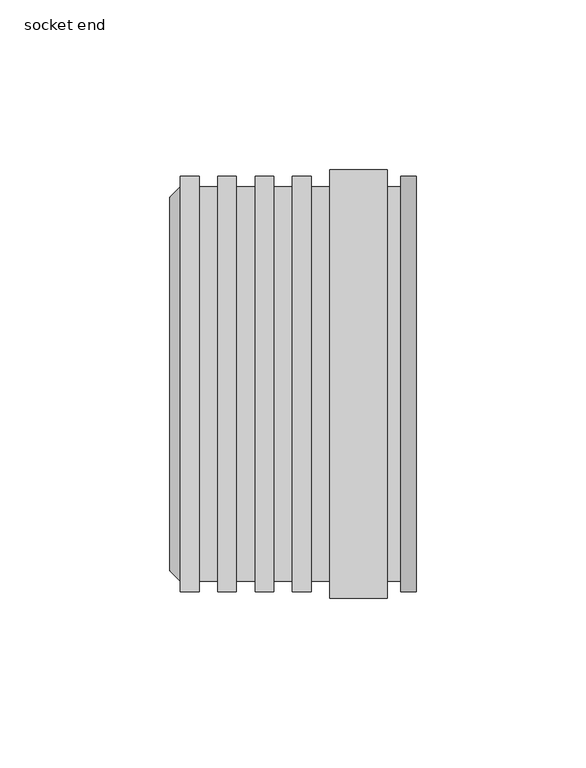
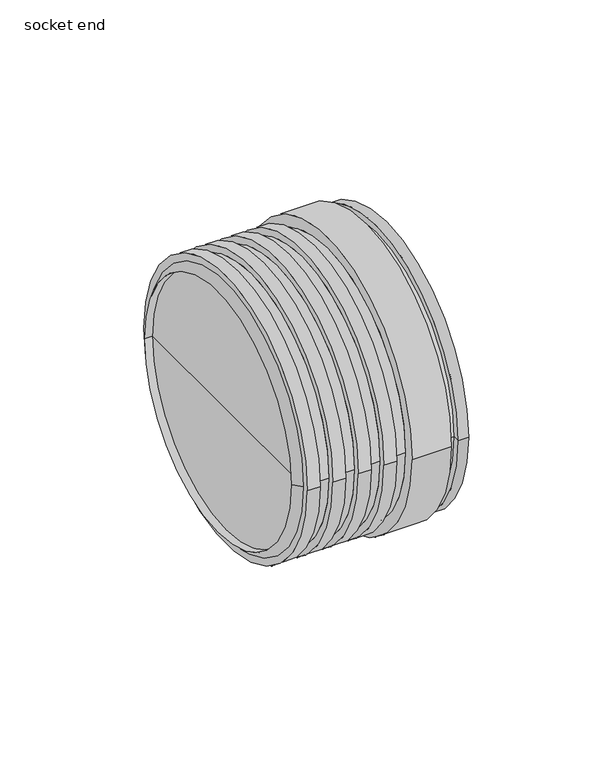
"""IFC4 building model written with IfcOpenShell, lengths in millimetres: pipe fitting geometry, Wavin SiTech+ M Muffenstopfen : socket end."""

from ifc_helpers import new_model, si_unit, frame, origin, place, context, project, spatial, polyline, circle_curve, source, transform, mapped, element, save
from ifc_brep_helpers import plane_surface, cylinder_surface, revolved_surface, advanced_brep


def socket_end_055a691a(model_context):
    return source(origin(), model_context, "Body", "AdvancedBrep", [
        advanced_brep(
        [(-72.710144, 55.0, 0.0), (-72.710144, -55.0, 0.0), (-4.5, -55.0, 0.0), (-4.5, 55.0, 0.0), (-69.5, 58.1, 0.0), (-69.5, -58.1, 0.0), (-64.0, 61.2, 0.0), (-64.0, -61.2, 0.0), (-69.5, -61.2, 0.0), (-69.5, 61.2, 0.0), (-58.5, 58.1, 0.0), (-58.5, -58.1, 0.0), (-64.0, -58.1, 0.0), (-64.0, 58.1, 0.0), (-53.0, 61.2, 0.0), (-53.0, -61.2, 0.0), (-58.5, -61.2, 0.0), (-58.5, 61.2, 0.0), (-47.5, 58.1, 0.0), (-47.5, -58.1, 0.0), (-53.0, -58.1, 0.0), (-53.0, 58.1, 0.0), (-42.0, 61.2, 0.0), (-42.0, -61.2, 0.0), (-47.5, -61.2, 0.0), (-47.5, 61.2, 0.0), (-36.5, 58.1, 0.0), (-36.5, -58.1, 0.0), (-42.0, -58.1, 0.0), (-42.0, 58.1, 0.0), (-31.0, 61.2, 0.0), (-31.0, -61.2, 0.0), (-36.5, -61.2, 0.0), (-36.5, 61.2, 0.0), (-25.5, 58.1, 0.0), (-25.5, -58.1, 0.0), (-31.0, -58.1, 0.0), (-31.0, 58.1, 0.0), (-8.5, 63.2, 0.0), (-8.5, -63.2, 0.0), (-25.5, -63.2, 0.0), (-25.5, 63.2, 0.0), (-4.5, 58.1, 0.0), (-4.5, -58.1, 0.0), (-8.5, -58.1, 0.0), (-8.5, 58.1, 0.0)],
        [
            (0, 1, circle_curve(frame((-72.710144, 0.0, 0.0), z_axis=(-1.0, 0.0, 0.0), x_axis=(0.0, -1.0, 0.0)), 55.0)),
            (1, 2),
            (2, 3, circle_curve(frame((-4.5, 0.0, 0.0), z_axis=(1.0, 0.0, 0.0), x_axis=(0.0, -1.0, 0.0)), 55.0)),
            (3, 0),
            (4, 5, circle_curve(frame((-69.5, 0.0, 0.0), z_axis=(-1.0, 0.0, 0.0), x_axis=(0.0, -1.0, 0.0)), 58.1)),
            (5, 1),
            (0, 4),
            (6, 7, circle_curve(frame((-64.0, 0.0, 0.0), z_axis=(-1.0, 0.0, 0.0), x_axis=(0.0, -1.0, 0.0)), 61.2)),
            (7, 8),
            (8, 9, circle_curve(frame((-69.5, 0.0, 0.0), z_axis=(1.0, 0.0, 0.0), x_axis=(0.0, -1.0, 0.0)), 61.2)),
            (9, 6),
            (10, 11, circle_curve(frame((-58.5, 0.0, 0.0), z_axis=(-1.0, 0.0, 0.0), x_axis=(0.0, -1.0, 0.0)), 58.1)),
            (11, 12),
            (12, 13, circle_curve(frame((-64.0, 0.0, 0.0), z_axis=(1.0, 0.0, 0.0), x_axis=(0.0, -1.0, 0.0)), 58.1)),
            (13, 10),
            (14, 15, circle_curve(frame((-53.0, 0.0, 0.0), z_axis=(-1.0, 0.0, 0.0), x_axis=(0.0, -1.0, 0.0)), 61.2)),
            (15, 16),
            (16, 17, circle_curve(frame((-58.5, 0.0, 0.0), z_axis=(1.0, 0.0, 0.0), x_axis=(0.0, -1.0, 0.0)), 61.2)),
            (17, 14),
            (18, 19, circle_curve(frame((-47.5, 0.0, 0.0), z_axis=(-1.0, 0.0, 0.0), x_axis=(0.0, -1.0, 0.0)), 58.1)),
            (19, 20),
            (20, 21, circle_curve(frame((-53.0, 0.0, 0.0), z_axis=(1.0, 0.0, 0.0), x_axis=(0.0, -1.0, 0.0)), 58.1)),
            (21, 18),
            (22, 23, circle_curve(frame((-42.0, 0.0, 0.0), z_axis=(-1.0, 0.0, 0.0), x_axis=(0.0, -1.0, 0.0)), 61.2)),
            (23, 24),
            (24, 25, circle_curve(frame((-47.5, 0.0, 0.0), z_axis=(1.0, 0.0, 0.0), x_axis=(0.0, -1.0, 0.0)), 61.2)),
            (25, 22),
            (26, 27, circle_curve(frame((-36.5, 0.0, 0.0), z_axis=(-1.0, 0.0, 0.0), x_axis=(0.0, -1.0, 0.0)), 58.1)),
            (27, 28),
            (28, 29, circle_curve(frame((-42.0, 0.0, 0.0), z_axis=(1.0, 0.0, 0.0), x_axis=(0.0, -1.0, 0.0)), 58.1)),
            (29, 26),
            (30, 31, circle_curve(frame((-31.0, 0.0, 0.0), z_axis=(-1.0, 0.0, 0.0), x_axis=(0.0, -1.0, 0.0)), 61.2)),
            (31, 32),
            (32, 33, circle_curve(frame((-36.5, 0.0, 0.0), z_axis=(1.0, 0.0, 0.0), x_axis=(0.0, -1.0, 0.0)), 61.2)),
            (33, 30),
            (34, 35, circle_curve(frame((-25.5, 0.0, 0.0), z_axis=(-1.0, 0.0, 0.0), x_axis=(0.0, -1.0, 0.0)), 58.1)),
            (35, 36),
            (36, 37, circle_curve(frame((-31.0, 0.0, 0.0), z_axis=(1.0, 0.0, 0.0), x_axis=(0.0, -1.0, 0.0)), 58.1)),
            (37, 34),
            (38, 39, circle_curve(frame((-8.5, 0.0, 0.0), z_axis=(-1.0, 0.0, 0.0), x_axis=(0.0, -1.0, 0.0)), 63.2)),
            (39, 40),
            (40, 41, circle_curve(frame((-25.5, 0.0, 0.0), z_axis=(1.0, 0.0, 0.0), x_axis=(0.0, -1.0, 0.0)), 63.2)),
            (41, 38),
            (42, 43, circle_curve(frame((-4.5, 0.0, 0.0), z_axis=(-1.0, 0.0, 0.0), x_axis=(0.0, -1.0, 0.0)), 58.1)),
            (43, 44),
            (44, 45, circle_curve(frame((-8.5, 0.0, 0.0), z_axis=(1.0, 0.0, 0.0), x_axis=(0.0, -1.0, 0.0)), 58.1)),
            (45, 42),
            (1, 0, circle_curve(frame((-72.710144, 0.0, 0.0), z_axis=(-1.0, 0.0, 0.0), x_axis=(0.0, 1.0, 0.0)), 55.0)),
            (3, 2, circle_curve(frame((-4.5, 0.0, 0.0), z_axis=(1.0, 0.0, 0.0), x_axis=(0.0, 1.0, 0.0)), 55.0)),
            (5, 4, circle_curve(frame((-69.5, 0.0, 0.0), z_axis=(-1.0, 0.0, 0.0), x_axis=(0.0, 1.0, 0.0)), 58.1)),
            (8, 9, circle_curve(frame((-69.5, 0.0, 0.0), z_axis=(-1.0, 0.0, 0.0), x_axis=(0.0, 1.0, 0.0)), 61.2)),
            (7, 6, circle_curve(frame((-64.0, 0.0, 0.0), z_axis=(-1.0, 0.0, 0.0), x_axis=(0.0, 1.0, 0.0)), 61.2)),
            (12, 13, circle_curve(frame((-64.0, 0.0, 0.0), z_axis=(-1.0, 0.0, 0.0), x_axis=(0.0, 1.0, 0.0)), 58.1)),
            (11, 10, circle_curve(frame((-58.5, 0.0, 0.0), z_axis=(-1.0, 0.0, 0.0), x_axis=(0.0, 1.0, 0.0)), 58.1)),
            (16, 17, circle_curve(frame((-58.5, 0.0, 0.0), z_axis=(-1.0, 0.0, 0.0), x_axis=(0.0, 1.0, 0.0)), 61.2)),
            (15, 14, circle_curve(frame((-53.0, 0.0, 0.0), z_axis=(-1.0, 0.0, 0.0), x_axis=(0.0, 1.0, 0.0)), 61.2)),
            (20, 21, circle_curve(frame((-53.0, 0.0, 0.0), z_axis=(-1.0, 0.0, 0.0), x_axis=(0.0, 1.0, 0.0)), 58.1)),
            (19, 18, circle_curve(frame((-47.5, 0.0, 0.0), z_axis=(-1.0, 0.0, 0.0), x_axis=(0.0, 1.0, 0.0)), 58.1)),
            (24, 25, circle_curve(frame((-47.5, 0.0, 0.0), z_axis=(-1.0, 0.0, 0.0), x_axis=(0.0, 1.0, 0.0)), 61.2)),
            (23, 22, circle_curve(frame((-42.0, 0.0, 0.0), z_axis=(-1.0, 0.0, 0.0), x_axis=(0.0, 1.0, 0.0)), 61.2)),
            (28, 29, circle_curve(frame((-42.0, 0.0, 0.0), z_axis=(-1.0, 0.0, 0.0), x_axis=(0.0, 1.0, 0.0)), 58.1)),
            (27, 26, circle_curve(frame((-36.5, 0.0, 0.0), z_axis=(-1.0, 0.0, 0.0), x_axis=(0.0, 1.0, 0.0)), 58.1)),
            (32, 33, circle_curve(frame((-36.5, 0.0, 0.0), z_axis=(-1.0, 0.0, 0.0), x_axis=(0.0, 1.0, 0.0)), 61.2)),
            (31, 30, circle_curve(frame((-31.0, 0.0, 0.0), z_axis=(-1.0, 0.0, 0.0), x_axis=(0.0, 1.0, 0.0)), 61.2)),
            (36, 37, circle_curve(frame((-31.0, 0.0, 0.0), z_axis=(-1.0, 0.0, 0.0), x_axis=(0.0, 1.0, 0.0)), 58.1)),
            (35, 34, circle_curve(frame((-25.5, 0.0, 0.0), z_axis=(-1.0, 0.0, 0.0), x_axis=(0.0, 1.0, 0.0)), 58.1)),
            (40, 41, circle_curve(frame((-25.5, 0.0, 0.0), z_axis=(-1.0, 0.0, 0.0), x_axis=(0.0, 1.0, 0.0)), 63.2)),
            (39, 38, circle_curve(frame((-8.5, 0.0, 0.0), z_axis=(-1.0, 0.0, 0.0), x_axis=(0.0, 1.0, 0.0)), 63.2)),
            (44, 45, circle_curve(frame((-8.5, 0.0, 0.0), z_axis=(-1.0, 0.0, 0.0), x_axis=(0.0, 1.0, 0.0)), 58.1)),
            (43, 42, circle_curve(frame((-4.5, 0.0, 0.0), z_axis=(-1.0, 0.0, 0.0), x_axis=(0.0, 1.0, 0.0)), 58.1)),
        ],
        [
            revolved_surface(polyline([(-4.5, -55.0, 0.0), (-72.710144, -55.0, 0.0)]), (-69.5, 0.0, 0.0), (1.0, 0.0, 0.0)),
            revolved_surface(polyline([(-72.710144, -55.0, 0.0), (-69.5, -58.1, 0.0)]), (-69.5, 0.0, 0.0), (1.0, 0.0, 0.0)),
            cylinder_surface(frame((-69.5, 0.0, 0.0), z_axis=(1.0, 0.0, 0.0), x_axis=(0.0, -1.0, 0.0)), 61.2),
            cylinder_surface(frame((-69.5, 0.0, 0.0), z_axis=(1.0, 0.0, 0.0), x_axis=(0.0, -1.0, 0.0)), 58.1),
            cylinder_surface(frame((-69.5, 0.0, 0.0), z_axis=(1.0, 0.0, 0.0), x_axis=(0.0, -1.0, 0.0)), 63.2),
            revolved_surface(polyline([(-4.5, 55.0, 0.0), (-72.710144, 55.0, 0.0)]), (-69.5, 0.0, 0.0), (1.0, 0.0, 0.0)),
            revolved_surface(polyline([(-72.710144, 55.0, 0.0), (-69.5, 58.1, 0.0)]), (-69.5, 0.0, 0.0), (1.0, 0.0, 0.0)),
            plane_surface(frame((-69.5, 0.0, 0.0), z_axis=(-1.0, 0.0, 0.0), x_axis=(0.0, 1.0, 0.0))),
            cylinder_surface(frame((-69.5, 0.0, 0.0), z_axis=(1.0, 0.0, 0.0), x_axis=(0.0, 1.0, 0.0)), 61.2),
            plane_surface(frame((-64.0, 0.0, 0.0), z_axis=(1.0, 0.0, 0.0), x_axis=(0.0, 1.0, 0.0))),
            cylinder_surface(frame((-69.5, 0.0, 0.0), z_axis=(1.0, 0.0, 0.0), x_axis=(0.0, 1.0, 0.0)), 58.1),
            plane_surface(frame((-58.5, 0.0, 0.0), z_axis=(-1.0, 0.0, 0.0), x_axis=(0.0, 1.0, 0.0))),
            plane_surface(frame((-53.0, 0.0, 0.0), z_axis=(1.0, 0.0, 0.0), x_axis=(0.0, 1.0, 0.0))),
            plane_surface(frame((-47.5, 0.0, 0.0), z_axis=(-1.0, 0.0, 0.0), x_axis=(0.0, 1.0, 0.0))),
            plane_surface(frame((-42.0, 0.0, 0.0), z_axis=(1.0, 0.0, 0.0), x_axis=(0.0, 1.0, 0.0))),
            plane_surface(frame((-36.5, 0.0, 0.0), z_axis=(-1.0, 0.0, 0.0), x_axis=(0.0, 1.0, 0.0))),
            plane_surface(frame((-31.0, 0.0, 0.0), z_axis=(1.0, 0.0, 0.0), x_axis=(0.0, 1.0, 0.0))),
            plane_surface(frame((-25.5, 0.0, 0.0), z_axis=(-1.0, 0.0, 0.0), x_axis=(0.0, 1.0, 0.0))),
            cylinder_surface(frame((-69.5, 0.0, 0.0), z_axis=(1.0, 0.0, 0.0), x_axis=(0.0, 1.0, 0.0)), 63.2),
            plane_surface(frame((-8.5, 0.0, 0.0), z_axis=(1.0, 0.0, 0.0), x_axis=(0.0, 1.0, 0.0))),
            plane_surface(frame((-4.5, 0.0, 0.0), z_axis=(1.0, 0.0, 0.0), x_axis=(0.0, 1.0, 0.0))),
        ],
        [
            (0, [[1, 2, 3, 4]]),
            (1, [[5, 6, -1, 7]]),
            (2, [[8, 9, 10, 11]]),
            (3, [[12, 13, 14, 15]]),
            (2, [[16, 17, 18, 19]]),
            (3, [[20, 21, 22, 23]]),
            (2, [[24, 25, 26, 27]]),
            (3, [[28, 29, 30, 31]]),
            (2, [[32, 33, 34, 35]]),
            (3, [[36, 37, 38, 39]]),
            (4, [[40, 41, 42, 43]]),
            (3, [[44, 45, 46, 47]]),
            (5, [[48, -4, 49, -2]]),
            (6, [[50, -7, -48, -6]]),
            (7, [[51, -10], [-50, -5]]),
            (8, [[52, -11, -51, -9]]),
            (9, [[-52, -8], [53, -14]]),
            (10, [[54, -15, -53, -13]]),
            (11, [[55, -18], [-54, -12]]),
            (8, [[56, -19, -55, -17]]),
            (12, [[-56, -16], [57, -22]]),
            (10, [[58, -23, -57, -21]]),
            (13, [[59, -26], [-58, -20]]),
            (8, [[60, -27, -59, -25]]),
            (14, [[-60, -24], [61, -30]]),
            (10, [[62, -31, -61, -29]]),
            (15, [[63, -34], [-62, -28]]),
            (8, [[64, -35, -63, -33]]),
            (16, [[-64, -32], [65, -38]]),
            (10, [[66, -39, -65, -37]]),
            (17, [[67, -42], [-66, -36]]),
            (18, [[68, -43, -67, -41]]),
            (19, [[-68, -40], [69, -46]]),
            (10, [[70, -47, -69, -45]]),
            (20, [[-70, -44], [-49, -3]]),
        ],
    ),
        advanced_brep(
        [(-69.5, 0.0, 0.0), (-69.5, 55.0, 0.0), (-69.5, -55.0, 0.0), (0.0, -61.25, 0.0), (0.0, 61.25, 0.0), (0.0, 0.0, 0.0), (-4.5, -61.25, 0.0), (-4.5, 61.25, 0.0), (-4.5, -55.0, 0.0), (-4.5, 55.0, 0.0)],
        [
            (0, 1),
            (1, 2, circle_curve(frame((-69.5, 0.0, 0.0), z_axis=(-1.0, 0.0, 0.0), x_axis=(0.0, 1.0, 0.0)), 55.0)),
            (2, 0),
            (2, 1, circle_curve(frame((-69.5, 0.0, 0.0), z_axis=(-1.0, 0.0, 0.0), x_axis=(0.0, 1.0, 0.0)), 55.0)),
            (3, 4, circle_curve(frame((0.0, 0.0, 0.0), z_axis=(1.0, 0.0, 0.0), x_axis=(0.0, 1.0, 0.0)), 61.25)),
            (4, 5),
            (5, 3),
            (4, 3, circle_curve(frame((0.0, 0.0, 0.0), z_axis=(1.0, 0.0, 0.0), x_axis=(0.0, 1.0, 0.0)), 61.25)),
            (6, 7, circle_curve(frame((-4.5, 0.0, 0.0), z_axis=(1.0, 0.0, 0.0), x_axis=(0.0, 1.0, 0.0)), 61.25)),
            (7, 4),
            (3, 6),
            (7, 6, circle_curve(frame((-4.5, 0.0, 0.0), z_axis=(1.0, 0.0, 0.0), x_axis=(0.0, 1.0, 0.0)), 61.25)),
            (8, 9, circle_curve(frame((-4.5, 0.0, 0.0), z_axis=(1.0, 0.0, 0.0), x_axis=(0.0, 1.0, 0.0)), 55.0)),
            (9, 7),
            (6, 8),
            (9, 8, circle_curve(frame((-4.5, 0.0, 0.0), z_axis=(1.0, 0.0, 0.0), x_axis=(0.0, 1.0, 0.0)), 55.0)),
            (1, 9),
            (8, 2),
        ],
        [
            plane_surface(frame((-69.5, 0.0, 0.0), z_axis=(-1.0, 0.0, 0.0), x_axis=(0.0, 1.0, 0.0))),
            plane_surface(frame((0.0, 0.0, 0.0), z_axis=(1.0, 0.0, 0.0), x_axis=(0.0, 1.0, 0.0))),
            cylinder_surface(frame((-69.5, 0.0, 0.0), z_axis=(-1.0, 0.0, 0.0), x_axis=(0.0, 1.0, 0.0)), 61.25),
            plane_surface(frame((-4.5, 0.0, 0.0), z_axis=(-1.0, 0.0, 0.0), x_axis=(0.0, 1.0, 0.0))),
            cylinder_surface(frame((-69.5, 0.0, 0.0), z_axis=(-1.0, 0.0, 0.0), x_axis=(0.0, 1.0, 0.0)), 55.0),
        ],
        [
            (0, [[1, 2, 3]]),
            (0, [[-3, 4, -1]]),
            (1, [[5, 6, 7]]),
            (1, [[8, -7, -6]]),
            (2, [[9, 10, -5, 11]]),
            (2, [[12, -11, -8, -10]]),
            (3, [[13, 14, -9, 15]]),
            (3, [[16, -15, -12, -14]]),
            (4, [[-2, 17, -13, 18]]),
            (4, [[-4, -18, -16, -17]]),
        ],
    ),
    ])


if __name__ == "__main__":
    model = new_model("IFC4")
    model_context = context("Model", 3, world=origin())
    ifc_project = project(units=[si_unit("LENGTHUNIT", "METRE", prefix="MILLI")], contexts=[model_context])
    site = spatial("IfcSite", under=ifc_project)
    building = spatial("IfcBuilding", under=site)
    placement = place(None, origin())
    socket_end_shape = socket_end_055a691a(model_context)
    element("IfcPipeFitting", 1, ObjectType="Wavin SiTech+ M Muffenstopfen : socket end", at=placement, inside=building, context=model_context, shape_type="MappedRepresentation", body=[
        mapped(socket_end_shape, transform((0.0, 0.0, 0.0), x_axis=(1.0, 0.0, 0.0), y_axis=(0.0, 1.0, 0.0), z_axis=(0.0, 0.0, 1.0))),
    ])
    save(model, "model.ifc")
